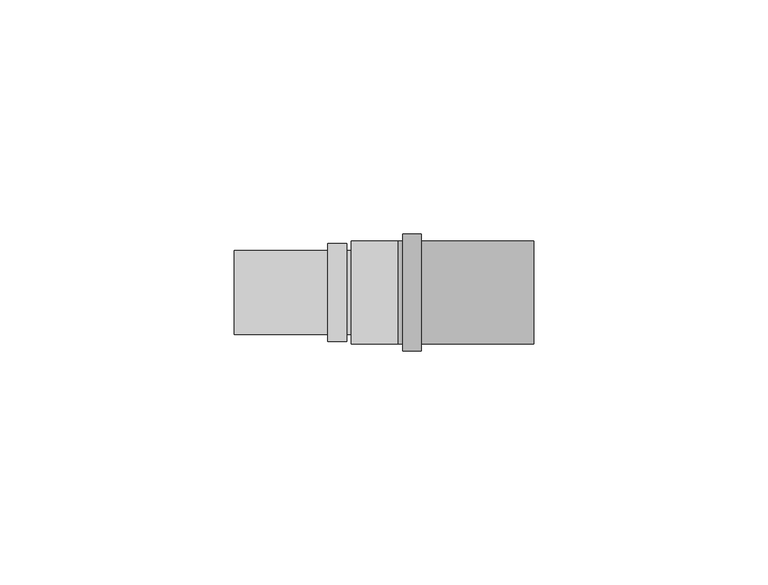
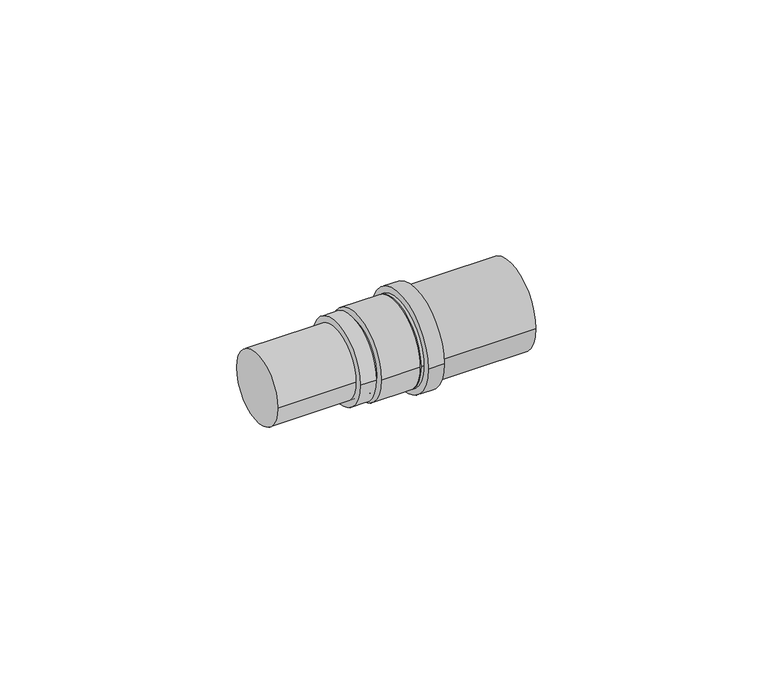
"""IFC4 building model written with IfcOpenShell, lengths in millimetres: pipe fitting geometry, COMAP - SKINPRESS ppsu - Manchon_Réduit_9240W : Manchon_Réduit_9240W."""

from ifc_helpers import new_model, si_unit, point, frame, origin, origin_2d, place, context, project, spatial, circle_curve, trimmed, segment, composite_curve, outline, extrude, source, transform, mapped, element, save


def pipe_fitting_50c77425(model_context):
    return source(origin(), model_context, "Body", "SweptSolid", [
        extrude(outline(composite_curve([segment(trimmed(circle_curve(origin_2d(), 10.5), [point((-10.5, 0.0))], [point((10.5, 0.0))], False, "CARTESIAN"), True, "CONTINUOUS"), segment(trimmed(circle_curve(origin_2d(), 10.5), [point((10.5, 0.0))], [point((-10.5, 0.0))], False, "CARTESIAN"), True, "CONTINUOUS")], self_intersect=False)), frame((-10.0, 0.0, 0.0), z_axis=(1.0, 0.0, 0.0), x_axis=(0.0, 1.0, 0.0)), (0.0, 0.0, 1.0), 4.0),
        extrude(outline(composite_curve([segment(trimmed(circle_curve(origin_2d(), 9.0), [point((-9.0, 0.0))], [point((9.0, 0.0))], False, "CARTESIAN"), True, "CONTINUOUS"), segment(trimmed(circle_curve(origin_2d(), 9.0), [point((9.0, 0.0))], [point((-9.0, 0.0))], False, "CARTESIAN"), True, "CONTINUOUS")], self_intersect=False)), frame((-30.0, 0.0, 0.0), z_axis=(1.0, 0.0, 0.0), x_axis=(0.0, 1.0, 0.0)), (0.0, 0.0, 1.0), 25.0),
        extrude(outline(composite_curve([segment(trimmed(circle_curve(origin_2d(), 12.5), [point((12.5, 0.0))], [point((-12.5, 0.0))], False, "CARTESIAN"), True, "CONTINUOUS"), segment(trimmed(circle_curve(origin_2d(), 12.5), [point((-12.5, 0.0))], [point((12.5, 0.0))], False, "CARTESIAN"), True, "CONTINUOUS")], self_intersect=False)), frame((6.0, 0.0, 0.0), z_axis=(1.0, 0.0, 0.0), x_axis=(0.0, 1.0, 0.0)), (0.0, 0.0, 1.0), 4.0),
        extrude(outline(composite_curve([segment(trimmed(circle_curve(origin_2d(), 11.0), [point((11.0, 0.0))], [point((-11.0, 0.0))], False, "CARTESIAN"), True, "CONTINUOUS"), segment(trimmed(circle_curve(origin_2d(), 11.0), [point((-11.0, 0.0))], [point((11.0, 0.0))], False, "CARTESIAN"), True, "CONTINUOUS")], self_intersect=False)), frame((5.0, 0.0, 0.0), z_axis=(1.0, 0.0, 0.0), x_axis=(0.0, 1.0, 0.0)), (0.0, 0.0, 1.0), 29.0),
        extrude(outline(composite_curve([segment(trimmed(circle_curve(origin_2d(), 11.0), [point((-11.0, 0.0))], [point((11.0, 0.0))], False, "CARTESIAN"), True, "CONTINUOUS"), segment(trimmed(circle_curve(origin_2d(), 11.0), [point((11.0, 0.0))], [point((-11.0, 0.0))], False, "CARTESIAN"), True, "CONTINUOUS")], self_intersect=False)), frame((-5.0, 0.0, 0.0), z_axis=(1.0, 0.0, 0.0), x_axis=(0.0, 1.0, 0.0)), (0.0, 0.0, 1.0), 10.0),
    ])


if __name__ == "__main__":
    model = new_model("IFC4")
    model_context = context("Model", 3, world=origin())
    ifc_project = project(units=[si_unit("LENGTHUNIT", "METRE", prefix="MILLI")], contexts=[model_context])
    site = spatial("IfcSite", under=ifc_project)
    building = spatial("IfcBuilding", under=site)
    placement = place(None, origin())
    pipe_fitting_shape = pipe_fitting_50c77425(model_context)
    element("IfcPipeFitting", 1, ObjectType="COMAP - SKINPRESS ppsu - Manchon_Réduit_9240W : Manchon_Réduit_9240W", at=placement, inside=building, context=model_context, shape_type="MappedRepresentation", body=[
        mapped(pipe_fitting_shape, transform((0.0, 0.0, 0.0), x_axis=(1.0, 0.0, 0.0), y_axis=(0.0, 1.0, 0.0), z_axis=(0.0, 0.0, 1.0))),
    ])
    save(model, "model.ifc")
